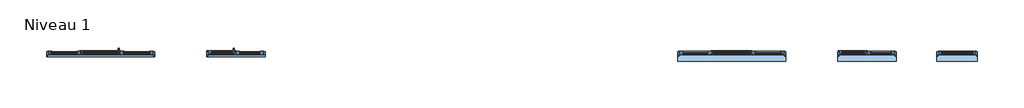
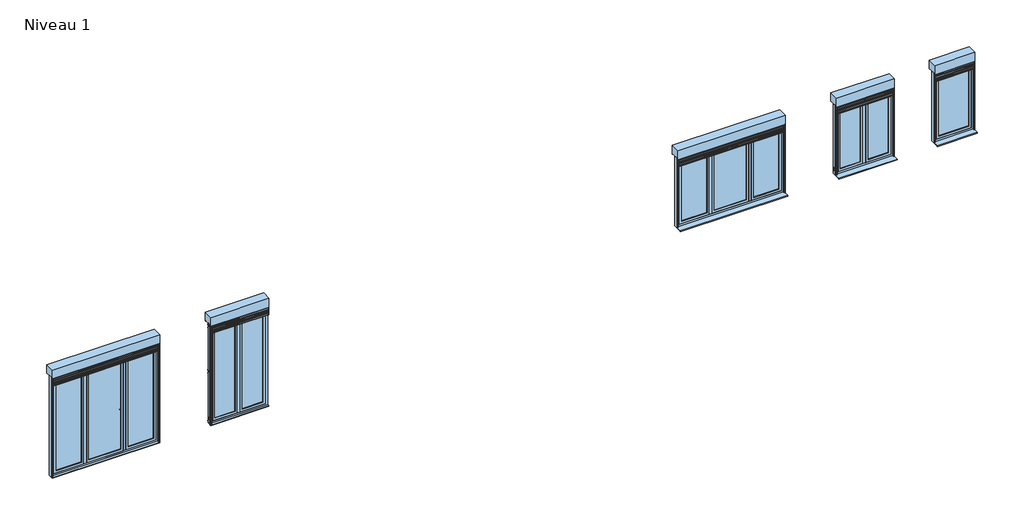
# One storey: 5 windows.
"""IFC4 building model written with IfcOpenShell, lengths in millimetres."""

from ifc_helpers import new_model, si_unit, origin, place, context, project, spatial, transform, mapped, element, save
from components import window_5d41eee4, window_cf888731, window_a6706a3a, window_10f17370, window_3_fixe_pvc_f0c6ea6f

model = new_model("IFC4")

# Units and contexts
model_context = context("Model", 3, world=origin())
ifc_project = project(units=[si_unit("LENGTHUNIT", "METRE", prefix="MILLI")], contexts=[model_context])

# Site, building, storey
site = spatial("IfcSite", under=ifc_project)
building = spatial("IfcBuilding", under=site)
storey = spatial("IfcBuildingStorey", under=building, Name="Niveau 1", Elevation=3000.0)

# Windows
placement = place(None, origin())
window_shape = window_5d41eee4(model_context)
element("IfcWindow", 1, ObjectType="5. OF1 + Fixe à G ENR PVC-ALU : OF3 260X165 (LXH) cm + PB", at=placement, inside=storey, context=model_context, shape_type="MappedRepresentation", body=[
    mapped(window_shape, transform((-4846.5524646, 109.3321867, 3200.0), x_axis=(-1.0, 0.0, 0.0), y_axis=(0.0, -1.0, 0.0), z_axis=(0.0, 0.0, 1.0))),
])
window_2_shape = window_cf888731(model_context)
element("IfcWindow", 2, ObjectType="8. OF1 + 2 Fixes à G et à D PVC-ALU : OF3 260X165 (LXH) cm + PB", at=placement, inside=storey, context=model_context, shape_type="MappedRepresentation", body=[
    mapped(window_2_shape, transform((-7846.5524646, 109.3321867, 3200.0), x_axis=(-1.0, 0.0, 0.0), y_axis=(0.0, -1.0, 0.0), z_axis=(0.0, 0.0, 1.0))),
])
window_3_shape = window_a6706a3a(model_context)
element("IfcWindow", 3, ObjectType="23. PF1 + Fixe à G ENR PVC-ALU : PF3 260X236 (LXH) cm + PB", at=placement, inside=storey, context=model_context, shape_type="MappedRepresentation", body=[
    mapped(window_3_shape, transform((-18846.5524646, 109.3321867, 3000.0), x_axis=(-1.0, 0.0, 0.0), y_axis=(0.0, -1.0, 0.0), z_axis=(0.0, 0.0, 1.0))),
])
window_4_shape = window_10f17370(model_context)
element("IfcWindow", 4, ObjectType="25. PF1 + Fixe à G et à D ENR PVC-ALU : PF3  260X236 (LXH) cm", at=placement, inside=storey, context=model_context, shape_type="MappedRepresentation", body=[
    mapped(window_4_shape, transform((-21846.5524646, 109.3321867, 3000.0), x_axis=(-1.0, 0.0, 0.0), y_axis=(0.0, -1.0, 0.0), z_axis=(0.0, 0.0, 1.0))),
])
window_3_fixe_pvc_shape = window_3_fixe_pvc_f0c6ea6f(model_context)
element("IfcWindow", 5, ObjectType="3. Fixe PVC : OF3 260X165 (LXH) cm", at=placement, inside=storey, context=model_context, shape_type="MappedRepresentation", body=[
    mapped(window_3_fixe_pvc_shape, transform((-2846.5524646, 109.3321867, 3200.0), x_axis=(-1.0, 0.0, 0.0), y_axis=(0.0, -1.0, 0.0), z_axis=(0.0, 0.0, 1.0))),
])

save(model, "model.ifc")
